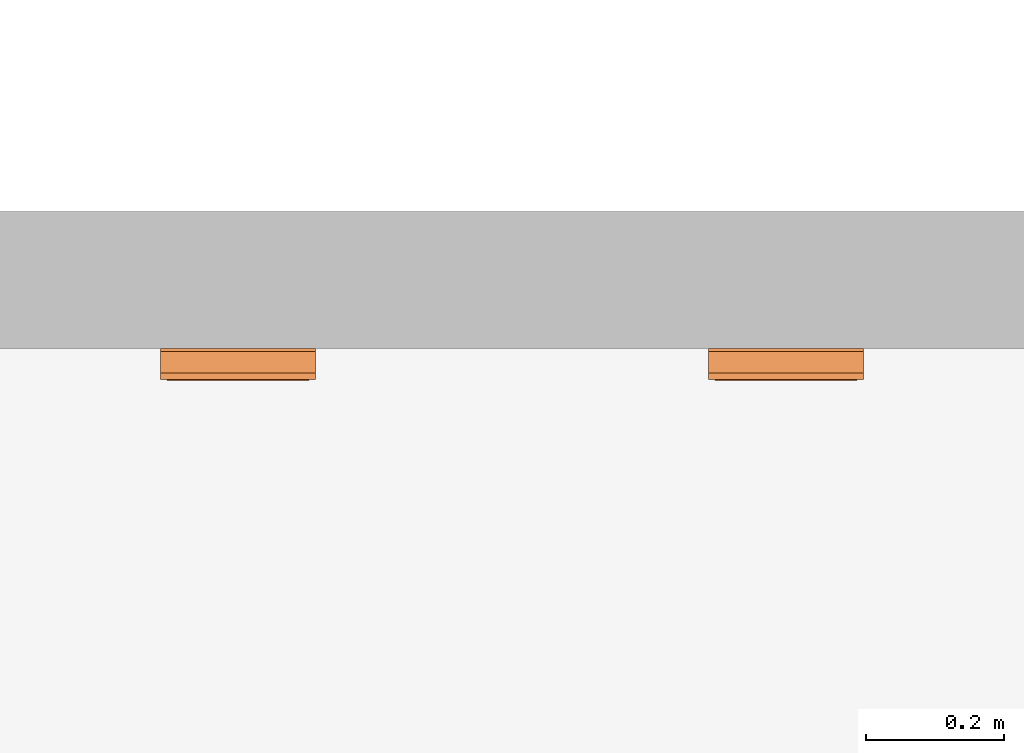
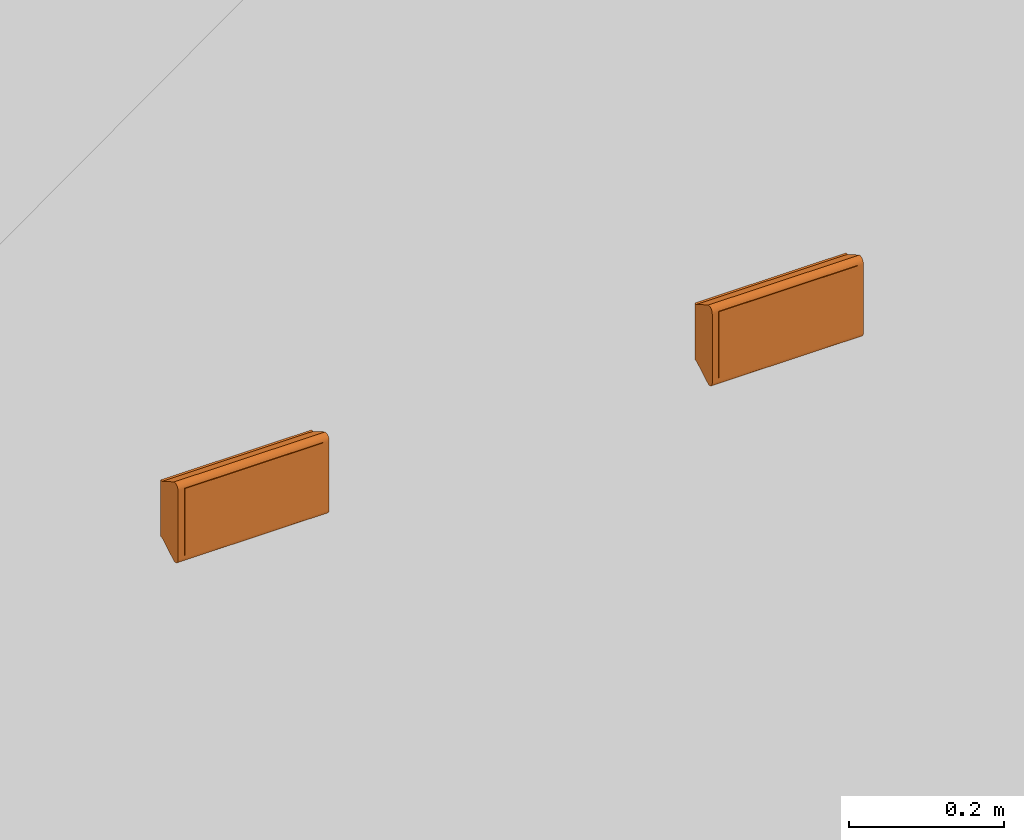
# One storey, part 59 of 197: 2 proxies.
"""IFC2X3 building model written with IfcOpenShell, lengths in metres."""

from ifc_helpers import new_model, entity, si_unit, converted_unit, direction, frame, frame_2d, origin, place, context, subcontext, project, spatial, polyline, circle_curve, parameter, trimmed, segment, composite_curve, outline, extrude, source, transform, mapped, material, material_list, type_object, type_shapes, element, save


model = new_model("IFC2X3")

# Units and contexts
model_context = context("Model", 3, precision=1e-05, world=origin(), true_north=direction((6.123031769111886e-17, 1.0)))
body_context = subcontext(model_context, "Body", "Model", "MODEL_VIEW")
ifc_project = project(units=[si_unit("LENGTHUNIT", "METRE"), converted_unit("PLANEANGLEUNIT", "DEGREE", entity("IfcPlaneAngleMeasure", 0.017453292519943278), si_unit("PLANEANGLEUNIT", "RADIAN"), dimensions=[0, 0, 0, 0, 0, 0, 0]), si_unit("AREAUNIT", "SQUARE_METRE")], contexts=[model_context])

# Site, building, storey
site_placement = place(None, origin())
site = spatial("IfcSite", under=ifc_project, at=site_placement, Name="Default", CompositionType="ELEMENT")
building_placement = place(site_placement, origin())
building = spatial("IfcBuilding", under=site, at=building_placement, CompositionType="ELEMENT")
storey_placement = place(building_placement, origin())
storey = spatial("IfcBuildingStorey", under=building, at=storey_placement, Name="Niveau 0", CompositionType="ELEMENT", Elevation=0.0)

# Proxies
ifc_material_1 = material(Name="BETCE-ETIQUETTE-BLANC")
ifc_material_2 = material(Name="BETCE-ETIQUETTE-VERT 0-193-0")
ifc_material_3 = material(Name="BETCE-VITRE BAES-BLEU")
ifc_material_4 = material(Name="BETCE-ENVELOPPE BAES-BLANC")
ifc_material_list = material_list([ifc_material_1, ifc_material_2, ifc_material_3, ifc_material_4])
building_element_proxy_type_1 = type_object("IfcBuildingElementProxyType", Name="Eclairage de sécurité saillie mur:AMBIANCE", PredefinedType="NOTDEFINED", material=ifc_material_list)
shared_shape_1 = source(origin(), body_context, "Body", "SweptSolid", [
    extrude(outline(polyline([(-0.011070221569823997, -0.058924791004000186), (0.011390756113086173, -0.058924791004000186), (0.05106820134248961, 0.02616376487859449), (0.028800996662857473, 0.026163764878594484), (0.019676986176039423, 0.006597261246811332), (-0.01999752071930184, 0.006597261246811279), (-0.029121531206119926, 0.026163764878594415), (-0.050747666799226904, 0.026163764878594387), (-0.011070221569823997, -0.058924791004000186)]), holes=[polyline([(0.01247382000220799, -0.00884997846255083), (-0.00016026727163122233, -0.03594386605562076), (-0.012794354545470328, -0.008849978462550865), (0.01247382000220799, -0.00884997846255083)])]), frame((-0.0003151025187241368, -0.046, -0.01722681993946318), z_axis=(0.0, 1.0, 0.0), x_axis=(1.0, 0.0, 0.0)), (0.0, 0.0, 1.0), 0.001000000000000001),
    extrude(outline(polyline([(-0.10299999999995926, -0.05249999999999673), (0.10299999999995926, -0.05249999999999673), (0.10299999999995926, 0.05249999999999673), (-0.10299999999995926, 0.05249999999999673), (-0.10299999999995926, -0.05249999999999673)]), holes=[polyline([(-0.011385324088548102, -0.041015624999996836), (-0.05106276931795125, 0.04407293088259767), (-0.029436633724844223, 0.04407293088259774), (-0.020312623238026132, 0.024506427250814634), (0.019361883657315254, 0.02450642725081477), (0.028485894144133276, 0.04407293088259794), (0.050753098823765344, 0.04407293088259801), (0.011075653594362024, -0.041015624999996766), (-0.011385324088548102, -0.041015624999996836)])]), frame((0.0, -0.046, 0.0006823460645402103), z_axis=(0.0, 1.0, 0.0), x_axis=(1.0, 0.0, 0.0)), (0.0, 0.0, 1.0), 0.001000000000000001),
    extrude(outline(polyline([(-0.012634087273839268, -0.009031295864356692), (0.01263408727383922, -0.009031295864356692), (0.0, 0.018062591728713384), (-0.012634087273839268, -0.009031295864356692)])), frame((-0.00047536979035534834, -0.046, 0.0006544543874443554), z_axis=(0.0, 1.0, 0.0), x_axis=(-1.0, 0.0, 0.0)), (0.0, 0.0, 1.0), 0.001000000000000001),
    extrude(outline(composite_curve([segment(trimmed(circle_curve(frame_2d((-0.0020000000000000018, -0.054499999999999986), x_axis=(1.0, 0.0)), 0.008), [parameter(270.0000000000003)], [parameter(3.5622212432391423e-13)], True, "PARAMETER"), True, "CONTINUOUS"), segment(polyline([(0.005999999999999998, -0.05449999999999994), (0.005999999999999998, 0.05450000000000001)]), True, "CONTINUOUS"), segment(trimmed(circle_curve(frame_2d((-0.0020000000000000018, 0.05450000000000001), x_axis=(1.0, 0.0)), 0.008), [parameter(359.9999999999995)], [parameter(89.99999999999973)], True, "PARAMETER"), True, "CONTINUOUS"), segment(polyline([(-0.001999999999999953, 0.06250000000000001), (-0.003999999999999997, 0.06250000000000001)]), True, "CONTINUOUS"), segment(polyline([(-0.003999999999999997, 0.06250000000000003), (-0.003999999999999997, -0.062499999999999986)]), True, "CONTINUOUS"), segment(polyline([(-0.003999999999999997, -0.0625), (-0.0020000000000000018, -0.0625)]), True, "CONTINUOUS")], self_intersect=False)), frame((-0.1125, -0.039, -0.0019999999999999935), z_axis=(1.0, 0.0, 0.0), x_axis=(0.0, -1.0, 0.0)), (0.0, 0.0, 1.0), 0.22499999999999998),
    extrude(outline(polyline([(-0.0625, -0.02205897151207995), (0.0625, -0.02205897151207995), (0.04449999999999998, 0.009117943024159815), (0.04449999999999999, 0.01294102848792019), (-0.04449999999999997, 0.012941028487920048), (-0.04449999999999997, 0.009117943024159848), (-0.0625, -0.02205897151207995)])), frame((-0.1125, -0.012941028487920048, -0.002000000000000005), z_axis=(1.0, 0.0, 0.0), x_axis=(0.0, 0.0, -1.0)), (0.0, 0.0, 1.0), 0.225),
])
type_shapes(building_element_proxy_type_1, [shared_shape_1])
proxy_1_placement = place(storey_placement, frame((-489.098972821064, 111.79035524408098, 1.0)))
element("IfcBuildingElementProxy", 1, at=proxy_1_placement, inside=storey, type_object=building_element_proxy_type_1, material=ifc_material_list, Name="Eclairage de sécurité saillie mur:AMBIANCE", ObjectType="Eclairage de sécurité saillie mur:AMBIANCE", context=body_context, shape_type="MappedRepresentation", body=[
    mapped(shared_shape_1, transform((0.0, 0.0, 0.0), scale=1.0)),
])
building_element_proxy_type_2 = type_object("IfcBuildingElementProxyType", Name="Eclairage de sécurité saillie mur:SORTIE", PredefinedType="NOTDEFINED", material=ifc_material_list)
shared_shape_2 = source(origin(), body_context, "Body", "SweptSolid", [
    extrude(outline(composite_curve([segment(polyline([(0.024501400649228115, -0.030893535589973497), (0.02450140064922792, -0.050852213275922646)]), True, "CONTINUOUS"), segment(polyline([(0.02450140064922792, -0.050852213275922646), (0.035348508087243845, -0.050852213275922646)]), True, "CONTINUOUS"), segment(trimmed(circle_curve(frame_2d((0.035348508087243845, -0.04217452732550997), x_axis=(1.0, 0.0)), 0.008677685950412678), [parameter(269.99999999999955)], [parameter(359.99999999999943)], True, "PARAMETER"), True, "CONTINUOUS"), segment(polyline([(0.04402619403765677, -0.042174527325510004), (0.04402619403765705, 0.04197629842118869)]), True, "CONTINUOUS"), segment(trimmed(circle_curve(frame_2d((0.03534850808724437, 0.041976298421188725), x_axis=(1.0, 0.0)), 0.008677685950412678), [parameter(359.99999999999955)], [parameter(89.99999999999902)], True, "PARAMETER"), True, "CONTINUOUS"), segment(polyline([(0.03534850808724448, 0.0506539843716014), (0.02450140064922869, 0.050653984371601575)]), True, "CONTINUOUS"), segment(trimmed(circle_curve(frame_2d((0.02450140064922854, 0.038505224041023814), x_axis=(1.0, 0.0)), 0.01214876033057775), [parameter(89.99999999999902)], [parameter(144.29560709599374)], True, "PARAMETER"), True, "CONTINUOUS"), segment(polyline([(0.01463613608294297, 0.045595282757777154), (-0.023825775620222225, -0.029390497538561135)]), True, "CONTINUOUS"), segment(trimmed(circle_curve(frame_2d((-0.026223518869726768, -0.028160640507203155), x_axis=(1.0, 0.0)), 0.00269008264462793), [parameter(180.00000000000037)], [parameter(332.8456810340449)], True, "PARAMETER"), False, "CONTINUOUS"), segment(polyline([(-0.028913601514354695, -0.028160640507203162), (-0.02891360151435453, 0.026356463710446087)]), True, "CONTINUOUS"), segment(trimmed(circle_curve(frame_2d((-0.024574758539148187, 0.026356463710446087), x_axis=(1.0, 0.0)), 0.004338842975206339), [parameter(90.00000000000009)], [parameter(180.00000000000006)], True, "PARAMETER"), False, "CONTINUOUS"), segment(polyline([(-0.024574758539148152, 0.03069530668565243), (-0.024574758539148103, 0.05065398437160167)]), True, "CONTINUOUS"), segment(polyline([(-0.024574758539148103, 0.05065398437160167), (-0.03542186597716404, 0.05065398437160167)]), True, "CONTINUOUS"), segment(trimmed(circle_curve(frame_2d((-0.03542186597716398, 0.041976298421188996), x_axis=(1.0, 0.0)), 0.008677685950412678), [parameter(90.00000000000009)], [parameter(180.00000000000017)], True, "PARAMETER"), True, "CONTINUOUS"), segment(polyline([(-0.044099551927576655, 0.041976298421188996), (-0.04409955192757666, -0.0421745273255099)]), True, "CONTINUOUS"), segment(trimmed(circle_curve(frame_2d((-0.03542186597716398, -0.04217452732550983), x_axis=(1.0, 0.0)), 0.008677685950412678), [parameter(180.00000000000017)], [parameter(269.9999999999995)], True, "PARAMETER"), True, "CONTINUOUS"), segment(polyline([(-0.03542186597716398, -0.050852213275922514), (-0.02457475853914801, -0.050852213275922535)]), True, "CONTINUOUS"), segment(trimmed(circle_curve(frame_2d((-0.02457475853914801, -0.03870345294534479), x_axis=(1.0, 0.0)), 0.01214876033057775), [parameter(269.99999999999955)], [parameter(324.2956070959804)], True, "PARAMETER"), True, "CONTINUOUS"), segment(polyline([(-0.01470949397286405, -0.04579351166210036), (0.024559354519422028, 0.030765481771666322)]), True, "CONTINUOUS"), segment(trimmed(circle_curve(frame_2d((0.026136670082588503, 0.02856971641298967), x_axis=(1.0, 0.0)), 0.0027035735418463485), [parameter(3.5622212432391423e-13)], [parameter(125.69136206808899)], True, "PARAMETER"), False, "CONTINUOUS"), segment(polyline([(0.028840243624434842, 0.028569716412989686), (0.02884024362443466, -0.02655469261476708)]), True, "CONTINUOUS"), segment(trimmed(circle_curve(frame_2d((0.024501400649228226, -0.02655469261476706), x_axis=(1.0, 0.0)), 0.004338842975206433), [parameter(269.9999999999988)], [parameter(1.5266662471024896e-13)], True, "PARAMETER"), False, "CONTINUOUS")], self_intersect=False)), frame((9.911445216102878e-05, -0.045999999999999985, 0.0006356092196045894), z_axis=(0.0, -1.0, 0.0), x_axis=(0.0, 0.0, -1.0)), (0.0, 0.0, -1.0), 0.001000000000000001),
    extrude(outline(polyline([(-0.10299999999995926, -0.05249999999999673), (0.10299999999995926, -0.05249999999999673), (0.10299999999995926, 0.05249999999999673), (-0.10299999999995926, 0.05249999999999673), (-0.10299999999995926, -0.05249999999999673)]), holes=[composite_curve([segment(polyline([(0.04207541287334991, -0.04405281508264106), (-0.04207541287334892, -0.04405281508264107)]), True, "CONTINUOUS"), segment(trimmed(circle_curve(frame_2d((-0.04207541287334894, -0.035375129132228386), x_axis=(0.0, -1.0)), 0.008677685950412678), [parameter(269.9999999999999)], [parameter(1.5266662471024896e-13)], True, "PARAMETER"), False, "CONTINUOUS"), segment(polyline([(-0.050753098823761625, -0.035375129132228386), (-0.050753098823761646, -0.024528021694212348)]), True, "CONTINUOUS"), segment(trimmed(circle_curve(frame_2d((-0.0386043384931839, -0.024528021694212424), x_axis=(0.0, -1.0)), 0.01214876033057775), [parameter(215.70439290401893)], [parameter(269.99999999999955)], True, "PARAMETER"), False, "CONTINUOUS"), segment(polyline([(-0.04569439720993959, -0.014662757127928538), (0.030864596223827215, 0.02460609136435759)]), True, "CONTINUOUS"), segment(trimmed(circle_curve(frame_2d((0.02866883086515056, 0.026183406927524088), x_axis=(0.0, -1.0)), 0.0027035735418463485), [parameter(54.30863793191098)], [parameter(179.99999999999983)], True, "PARAMETER"), True, "CONTINUOUS"), segment(polyline([(0.028668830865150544, 0.028886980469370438), (-0.02645557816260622, 0.028886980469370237)]), True, "CONTINUOUS"), segment(trimmed(circle_curve(frame_2d((-0.02645557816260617, 0.02454813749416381), x_axis=(0.0, -1.0)), 0.004338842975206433), [parameter(180.00000000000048)], [parameter(270.0000000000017)], True, "PARAMETER"), True, "CONTINUOUS"), segment(polyline([(-0.030794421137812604, 0.024548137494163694), (-0.05075309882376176, 0.024548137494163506)]), True, "CONTINUOUS"), segment(polyline([(-0.05075309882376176, 0.024548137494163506), (-0.05075309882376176, 0.03539524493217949)]), True, "CONTINUOUS"), segment(trimmed(circle_curve(frame_2d((-0.04207541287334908, 0.03539524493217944), x_axis=(0.0, -1.0)), 0.008677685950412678), [parameter(180.00000000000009)], [parameter(269.9999999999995)], True, "PARAMETER"), False, "CONTINUOUS"), segment(polyline([(-0.042075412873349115, 0.044072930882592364), (0.04207541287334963, 0.044072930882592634)]), True, "CONTINUOUS"), segment(trimmed(circle_curve(frame_2d((0.042075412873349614, 0.035395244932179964), x_axis=(0.0, -1.0)), 0.008677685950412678), [parameter(90.0000000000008)], [parameter(180.00000000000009)], True, "PARAMETER"), False, "CONTINUOUS"), segment(polyline([(0.05075309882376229, 0.03539524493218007), (0.050753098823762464, 0.0245481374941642)]), True, "CONTINUOUS"), segment(trimmed(circle_curve(frame_2d((0.0386043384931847, 0.024548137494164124), x_axis=(0.0, -1.0)), 0.01214876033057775), [parameter(35.704392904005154)], [parameter(90.00000000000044)], True, "PARAMETER"), False, "CONTINUOUS"), segment(polyline([(0.04569439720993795, 0.014682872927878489), (-0.029291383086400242, -0.023779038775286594)]), True, "CONTINUOUS"), segment(trimmed(circle_curve(frame_2d((-0.028061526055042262, -0.026176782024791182), x_axis=(0.0, -1.0)), 0.00269008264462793), [parameter(207.15431896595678)], [parameter(5.597776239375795e-13)], True, "PARAMETER"), True, "CONTINUOUS"), segment(polyline([(-0.028061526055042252, -0.02886686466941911), (0.026455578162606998, -0.028866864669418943)]), True, "CONTINUOUS"), segment(trimmed(circle_curve(frame_2d((0.02645557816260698, -0.0245280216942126), x_axis=(0.0, -1.0)), 0.004338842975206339), [parameter(2.0355549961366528e-13)], [parameter(90.0000000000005)], True, "PARAMETER"), True, "CONTINUOUS"), segment(polyline([(0.030794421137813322, -0.024528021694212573), (0.05075309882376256, -0.02452802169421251)]), True, "CONTINUOUS"), segment(polyline([(0.05075309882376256, -0.02452802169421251), (0.05075309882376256, -0.03537512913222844)]), True, "CONTINUOUS"), segment(trimmed(circle_curve(frame_2d((0.042075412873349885, -0.035375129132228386), x_axis=(0.0, -1.0)), 0.008677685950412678), [parameter(359.9999999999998)], [parameter(89.99999999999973)], True, "PARAMETER"), False, "CONTINUOUS")], self_intersect=False)]), frame((0.0, -0.046, 0.0006823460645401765), z_axis=(0.0, 1.0, 0.0), x_axis=(1.0, 0.0, 0.0)), (0.0, 0.0, 1.0), 0.001000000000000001),
    extrude(outline(composite_curve([segment(trimmed(circle_curve(frame_2d((-0.0020000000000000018, -0.054499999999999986), x_axis=(1.0, 0.0)), 0.008), [parameter(270.0000000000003)], [parameter(3.5622212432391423e-13)], True, "PARAMETER"), True, "CONTINUOUS"), segment(polyline([(0.005999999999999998, -0.05449999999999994), (0.005999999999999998, 0.05450000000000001)]), True, "CONTINUOUS"), segment(trimmed(circle_curve(frame_2d((-0.0020000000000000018, 0.05450000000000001), x_axis=(1.0, 0.0)), 0.008), [parameter(359.9999999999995)], [parameter(89.99999999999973)], True, "PARAMETER"), True, "CONTINUOUS"), segment(polyline([(-0.001999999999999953, 0.06250000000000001), (-0.003999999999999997, 0.06250000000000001)]), True, "CONTINUOUS"), segment(polyline([(-0.003999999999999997, 0.06250000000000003), (-0.003999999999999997, -0.062499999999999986)]), True, "CONTINUOUS"), segment(polyline([(-0.003999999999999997, -0.0625), (-0.0020000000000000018, -0.0625)]), True, "CONTINUOUS")], self_intersect=False)), frame((-0.1125, -0.039, -0.0019999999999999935), z_axis=(1.0, 0.0, 0.0), x_axis=(0.0, -1.0, 0.0)), (0.0, 0.0, 1.0), 0.22499999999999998),
    extrude(outline(polyline([(-0.0625, -0.02205897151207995), (0.0625, -0.02205897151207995), (0.04449999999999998, 0.009117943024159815), (0.04449999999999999, 0.01294102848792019), (-0.04449999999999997, 0.012941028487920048), (-0.04449999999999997, 0.009117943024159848), (-0.0625, -0.02205897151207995)])), frame((-0.1125, -0.012941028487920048, -0.002000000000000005), z_axis=(1.0, 0.0, 0.0), x_axis=(0.0, 0.0, -1.0)), (0.0, 0.0, 1.0), 0.225),
])
type_shapes(building_element_proxy_type_2, [shared_shape_2])
proxy_2_placement = place(storey_placement, frame((-489.89408824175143, 111.79035524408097, 1.0)))
element("IfcBuildingElementProxy", 2, at=proxy_2_placement, inside=storey, type_object=building_element_proxy_type_2, material=ifc_material_list, Name="Eclairage de sécurité saillie mur:SORTIE", ObjectType="Eclairage de sécurité saillie mur:SORTIE", context=body_context, shape_type="MappedRepresentation", body=[
    mapped(shared_shape_2, transform((0.0, 0.0, 0.0), scale=1.0)),
])

save(model, "model.ifc")
